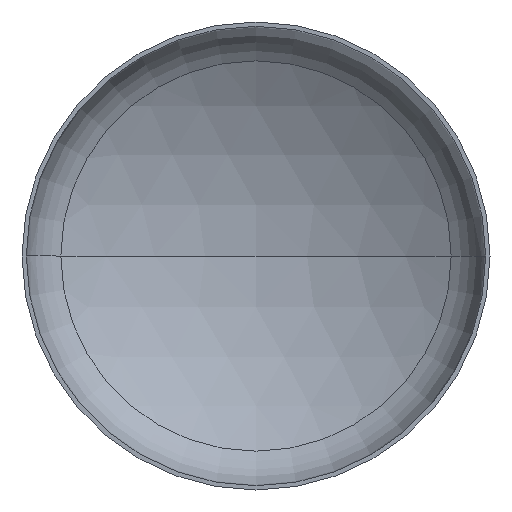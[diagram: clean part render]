
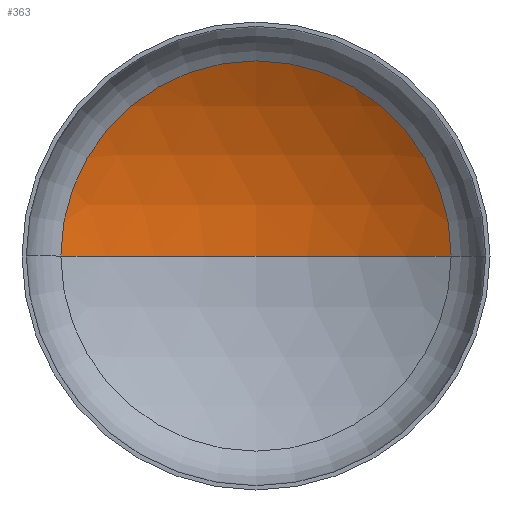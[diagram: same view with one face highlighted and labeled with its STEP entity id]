
A CAD part, front view. The second image highlights one B-rep face of the part: STEP entity #363.
In plain terms, the highlighted spherical face has radius 1920 mm.
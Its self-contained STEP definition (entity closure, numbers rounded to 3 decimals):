
#5 = AXIS2_PLACEMENT_3D ( 'NONE', #293, #370, #107 ) ;
#7 = CARTESIAN_POINT ( 'NONE',  ( 0., -1252.738, 0. ) ) ;
#26 = AXIS2_PLACEMENT_3D ( 'NONE', #7, #110, #390 ) ;
#31 = AXIS2_PLACEMENT_3D ( 'NONE', #199, #179, #175 ) ;
#33 = AXIS2_PLACEMENT_3D ( 'NONE', #159, #160, #141 ) ;
#64 = CARTESIAN_POINT ( 'NONE',  ( -1000.877, 385.75, 0. ) ) ;
#74 = EDGE_CURVE ( 'NONE', #242, #278, #319, .T. ) ;
#81 = EDGE_CURVE ( 'NONE', #405, #242, #394, .T. ) ;
#91 = EDGE_CURVE ( 'NONE', #405, #278, #253, .T. ) ;
#107 = DIRECTION ( 'NONE',  ( -1., 0., 0. ) ) ;
#110 = DIRECTION ( 'NONE',  ( 0., 0., 1. ) ) ;
#141 = DIRECTION ( 'NONE',  ( -1., 0., 0. ) ) ;
#147 = CARTESIAN_POINT ( 'NONE',  ( 0., 667.262, 0. ) ) ;
#154 = ORIENTED_EDGE ( 'NONE', *, *, #74, .T. ) ;
#159 = CARTESIAN_POINT ( 'NONE',  ( 0., -1252.738, 0. ) ) ;
#160 = DIRECTION ( 'NONE',  ( 0., 0., -1. ) ) ;
#175 = DIRECTION ( 'NONE',  ( 1., 0., 0. ) ) ;
#179 = DIRECTION ( 'NONE',  ( 0., -1., 0. ) ) ;
#199 = CARTESIAN_POINT ( 'NONE',  ( 0., 385.75, 0. ) ) ;
#214 = CARTESIAN_POINT ( 'NONE',  ( 1000.877, 385.75, 0. ) ) ;
#242 = VERTEX_POINT ( 'NONE', #214 ) ;
#244 = ORIENTED_EDGE ( 'NONE', *, *, #91, .F. ) ;
#253 = CIRCLE ( 'NONE', #26, 1920. ) ;
#266 = SPHERICAL_SURFACE ( 'NONE', #5, 1920. ) ;
#278 = VERTEX_POINT ( 'NONE', #64 ) ;
#293 = CARTESIAN_POINT ( 'NONE',  ( 0., -1252.738, 0. ) ) ;
#298 = EDGE_LOOP ( 'NONE', ( #244, #367, #154 ) ) ;
#319 = CIRCLE ( 'NONE', #31, 1000.877 ) ;
#344 = FACE_OUTER_BOUND ( 'NONE', #298, .T. ) ;
#363 = ADVANCED_FACE ( 'NONE', ( #344 ), #266, .F. ) ;
#367 = ORIENTED_EDGE ( 'NONE', *, *, #81, .T. ) ;
#370 = DIRECTION ( 'NONE',  ( 0., 0., -1. ) ) ;
#390 = DIRECTION ( 'NONE',  ( 1., 0., 0. ) ) ;
#394 = CIRCLE ( 'NONE', #33, 1920. ) ;
#405 = VERTEX_POINT ( 'NONE', #147 ) ;
